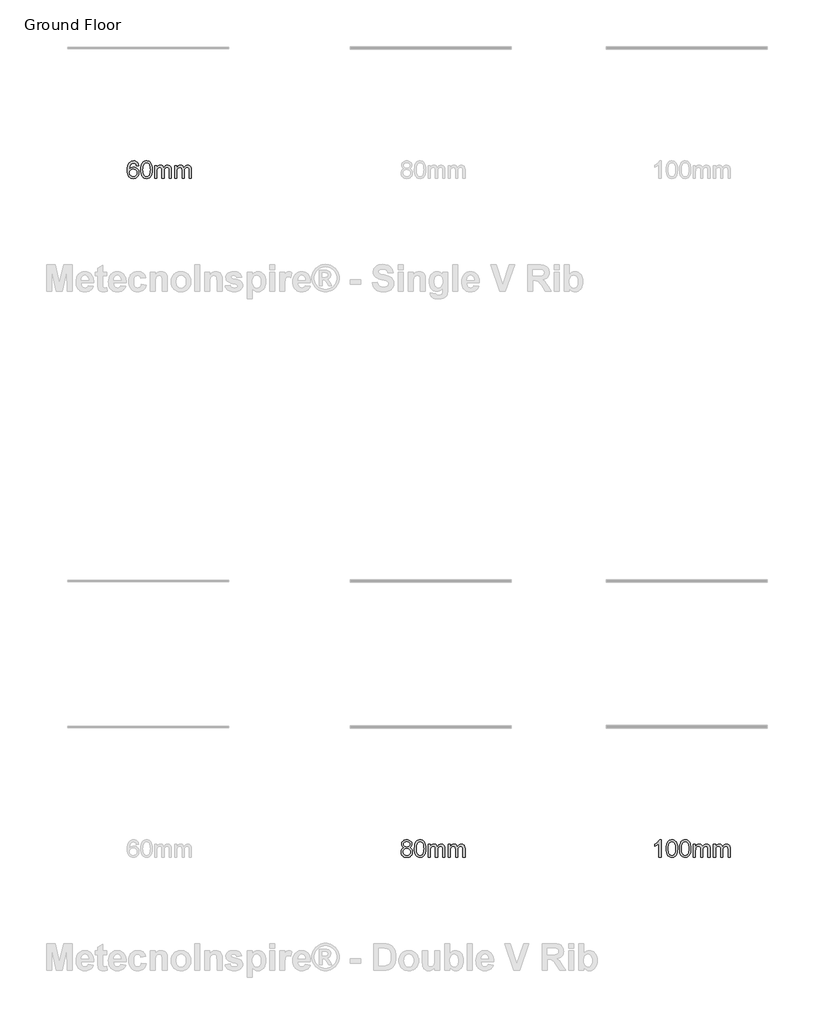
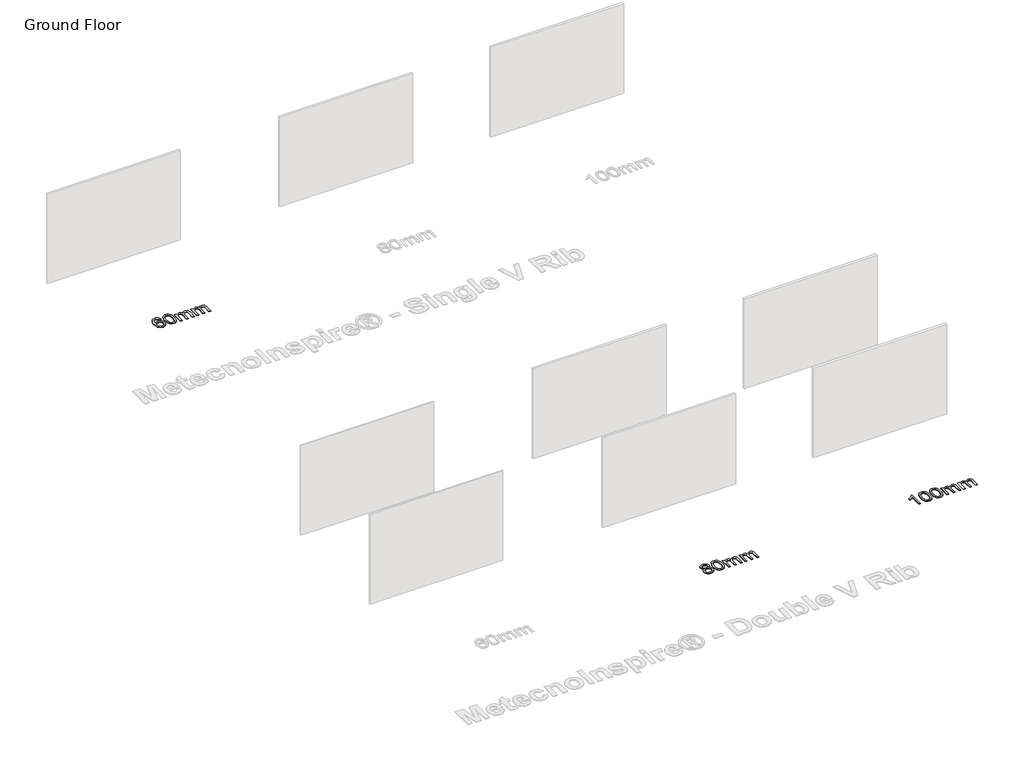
# One storey, part 10 of 14: 3 proxies.
"""IFC4 building model written with IfcOpenShell, lengths in millimetres."""

from ifc_helpers import new_model, si_unit, origin, origin_with_axes, place, context, project, spatial, polyline, outline, extrude, element, save

model = new_model("IFC4")

# Units and contexts
model_context = context("Model", 3, world=origin())
ifc_project = project(units=[si_unit("LENGTHUNIT", "METRE", prefix="MILLI")], contexts=[model_context])

# Site, building, storey
site = spatial("IfcSite", under=ifc_project)
building = spatial("IfcBuilding", under=site)
storey = spatial("IfcBuildingStorey", under=building, Name="Ground Floor", Elevation=0.0)

# Proxies
placement = place(None, origin())
element("IfcBuildingElementProxy", 1, Name="600mm Arial", ObjectType="600mm Arial", at=placement, inside=storey, context=model_context, shape_type="SweptSolid", body=[
    extrude(outline(polyline([(2240.452797, -25042.9517534), (2165.1105644, -25052.3695325), (2152.9704585, -25015.02951), (2136.5629215, -24989.5352877), (2120.3669167, -24975.8224863), (2102.3866842, -24966.0276282), (2082.622224, -24960.1507133), (2061.0735361, -24958.1917417), (2026.0511702, -24962.7534785), (1993.0889434, -24976.4386887), (1964.7804239, -25005.262243), (1941.6590405, -25044.9383162), (1932.622939, -25070.2439989), (1926.0424498, -25101.0587146), (1920.2483084, -25179.2152444), (1950.4698143, -25143.9537552), (1986.6877967, -25119.1033264), (2026.8789047, -25104.3696525), (2069.0197872, -25099.4584279), (2105.2193755, -25102.8153511), (2138.6230607, -25112.8861207), (2169.2308427, -25129.6707367), (2197.0427215, -25153.1691992), (2220.1549079, -25181.9835564), (2236.6636124, -25214.715857), (2246.5688351, -25251.3661007), (2249.870576, -25291.9342877), (2248.3162746, -25319.4012772), (2243.6533703, -25345.8841823), (2235.8818632, -25371.3830031), (2225.0017532, -25395.8977396), (2211.3993164, -25418.5132852), (2195.460829, -25438.3145336), (2177.1862908, -25455.3014848), (2156.5757021, -25469.4741386), (2134.070521, -25480.6439557), (2110.1122061, -25488.6223965), (2084.7007573, -25493.4094609), (2057.8361746, -25495.0051491), (2012.9223815, -25490.7745061), (1972.358793, -25478.0825773), (1936.1454091, -25456.9293626), (1904.2822298, -25427.314862), (1878.3051624, -25387.9882767), (1859.7501143, -25337.6988079), (1848.6170854, -25276.4464558), (1844.9060758, -25204.2312201), (1849.0263541, -25123.26959), (1861.3871891, -25054.1721543), (1881.9885809, -24996.9389129), (1895.3794855, -24972.771365), (1910.8305293, -24951.5698658), (1942.0913018, -24921.5047098), (1978.3368754, -24900.0295983), (2019.56725, -24887.1445314), (2065.7824257, -24882.8495091), (2100.4828949, -24885.5074565), (2131.8908202, -24893.4812988), (2160.0062017, -24906.7710358), (2184.8290393, -24925.3766678), (2205.6879484, -24948.6727951), (2221.9115444, -24976.0340185), (2233.4998273, -25007.4603379), (2240.452797, -25042.9517534)]), holes=[polyline([(1920.2483084, -25290.7570654), (1924.60771, -25324.1423564), (1937.6859149, -25356.0193313), (1957.9930011, -25383.4265399), (1984.0390463, -25403.4025323), (2015.4745628, -25415.5978204), (2051.9500626, -25419.6629165), (2078.1386622, -25417.5567921), (2101.6693143, -25411.2384188), (2122.542019, -25400.7077967), (2140.7567763, -25385.9649257), (2155.5318369, -25367.6076142), (2166.0854516, -25346.2336702), (2172.4176205, -25321.843094), (2174.5283434, -25294.4358853), (2172.4452116, -25268.100133), (2166.1958162, -25244.7166337), (2155.7801573, -25224.2853874), (2141.1982347, -25206.8063941), (2122.9282951, -25192.8038856), (2101.4485851, -25182.8020939), (2076.7591047, -25176.8010188), (2048.8598539, -25174.8006605), (2023.0207422, -25176.8010188), (1999.2141786, -25182.8020939), (1977.440163, -25192.8038856), (1957.6986955, -25206.8063941), (1941.3141511, -25224.0554611), (1929.6109051, -25243.7969287), (1922.5889576, -25266.0307968), (1920.2483084, -25290.7570654)])]), origin_with_axes(), (0.0, 0.0, 1.0), 20.0),
    extrude(outline(polyline([(2315.7950296, -25189.0744819), (2321.3316536, -25092.5974287), (2328.2524336, -25051.6843523), (2337.9415257, -25015.6549094), (2350.357543, -24984.2147944), (2365.4590989, -24957.0697016), (2383.2461934, -24934.2196312), (2403.7188264, -24915.6645831), (2426.9459759, -24901.3079882), (2452.9966197, -24891.0532776), (2481.8707578, -24884.9004512), (2513.5683902, -24882.8495091), (2559.995098, -24887.7055514), (2601.5657634, -24902.2736785), (2636.330612, -24925.983673), (2662.339869, -24958.2653181), (2681.9847676, -24998.8427022), (2697.6565406, -25047.4399138), (2707.9204482, -25109.1521184), (2711.3417508, -25189.0744819), (2705.8603091, -25284.9997121), (2699.0085069, -25325.7748328), (2689.4159839, -25361.7582904), (2677.0965356, -25393.212201), (2662.0639575, -25420.3986805), (2644.3182498, -25443.3177288), (2623.8594123, -25461.9693459), (2600.6046717, -25476.4225098), (2574.4712545, -25486.7461983), (2545.4591606, -25492.9404114), (2513.5683902, -25495.0051491), (2472.0713011, -25491.4182996), (2435.2831016, -25480.6577513), (2403.2037916, -25462.723504), (2375.8333712, -25437.6155578), (2349.5665967, -25392.2281167), (2330.804615, -25335.675457), (2319.5474259, -25267.9575787), (2315.7950296, -25189.0744819)]), holes=[polyline([(2391.1372622, -25188.9273291), (2393.3445542, -25254.4241198), (2399.9664301, -25307.4405138), (2411.0028899, -25347.9765112), (2426.4539337, -25376.0321118), (2445.1423391, -25395.1205889), (2465.8908836, -25408.7552153), (2488.6995673, -25416.9359912), (2513.5683902, -25419.6629165), (2538.4372131, -25416.9267941), (2561.2458968, -25408.7184271), (2581.9944413, -25395.0378154), (2600.6828466, -25375.884959), (2616.1338904, -25347.7833731), (2627.1703503, -25307.2565728), (2633.7922262, -25254.3045582), (2635.9995182, -25188.9273291), (2633.8658026, -25125.1641823), (2627.4646559, -25073.0812888), (2616.796078, -25032.6786487), (2601.860069, -25003.9562619), (2583.4843634, -24983.9342843), (2562.4966955, -24969.6328718), (2538.8970656, -24961.0520242), (2512.6854734, -24958.1917417), (2487.9454092, -24960.7117334), (2465.5230016, -24968.2717084), (2445.4182506, -24980.8716667), (2427.6311561, -24998.5116084), (2411.6650775, -25029.781578), (2400.2607357, -25071.9408546), (2393.4181306, -25124.9894383), (2391.1372622, -25188.9273291)])]), origin_with_axes(), (0.0, 0.0, 1.0), 20.0),
    extrude(outline(polyline([(2796.1017625, -25485.58737), (2796.1017625, -25042.9517534), (2871.4439951, -25042.9517534), (2871.4439951, -25115.7923885), (2894.105526, -25082.333521), (2923.24178, -25056.1219288), (2957.8594758, -25039.180963), (2996.9653319, -25033.5339743), (3038.8670911, -25039.2913276), (3056.7001708, -25046.4880191), (3072.4547173, -25056.5633872), (3097.5442693, -25084.2097192), (3113.9518063, -25121.0898892), (3141.4141973, -25082.7841764), (3172.7393491, -25055.422953), (3207.927262, -25039.006219), (3246.9779358, -25033.5339743), (3277.1396609, -25035.8102442), (3303.6133689, -25042.6390537), (3326.39906, -25054.0204029), (3345.4967341, -25069.9542919), (3360.5936915, -25090.6246615), (3371.3772324, -25116.2154528), (3377.847357, -25146.7266657), (3380.0040652, -25182.1583004), (3380.0040652, -25485.58737), (3304.6618326, -25485.58737), (3304.6618326, -25214.531916), (3302.9143931, -25176.9527702), (3297.6720747, -25151.6240948), (3287.8496254, -25134.2784587), (3272.3617934, -25120.6484308), (3252.4409834, -25111.8192629), (3229.3196, -25108.8762069), (3207.9686487, -25110.7616022), (3188.5030926, -25116.4177879), (3170.9229318, -25125.844764), (3155.2281662, -25139.0425306), (3142.3201067, -25156.3973637), (3133.1000642, -25178.2955394), (3127.5680387, -25204.7370578), (3125.7240302, -25235.7219189), (3125.7240302, -25485.58737), (3050.3817976, -25485.58737), (3050.3817976, -25206.1442065), (3046.0223959, -25163.5434714), (3040.5731439, -25146.8232348), (3032.944191, -25133.1564186), (3022.8320346, -25122.533826), (3009.9331722, -25114.9462599), (2994.2476036, -25110.3937202), (2975.7753289, -25108.8762069), (2946.7494395, -25112.9229089), (2920.0044185, -25125.0630147), (2897.9314987, -25145.0022189), (2882.9219133, -25172.4462157), (2874.3134747, -25210.5220022), (2871.4439951, -25262.3565753), (2871.4439951, -25485.58737), (2796.1017625, -25485.58737)])), origin_with_axes(), (0.0, 0.0, 1.0), 20.0),
    extrude(outline(polyline([(3493.0174141, -25485.58737), (3493.0174141, -25042.9517534), (3568.3596468, -25042.9517534), (3568.3596468, -25115.7923885), (3591.0211777, -25082.333521), (3620.1574317, -25056.1219288), (3654.7751274, -25039.180963), (3693.8809835, -25033.5339743), (3735.7827428, -25039.2913276), (3753.6158225, -25046.4880191), (3769.3703689, -25056.5633872), (3794.459921, -25084.2097192), (3810.867458, -25121.0898892), (3838.3298489, -25082.7841764), (3869.6550008, -25055.422953), (3904.8429136, -25039.006219), (3943.8935874, -25033.5339743), (3974.0553125, -25035.8102442), (4000.5290206, -25042.6390537), (4023.3147117, -25054.0204029), (4042.4123857, -25069.9542919), (4057.5093431, -25090.6246615), (4068.2928841, -25116.2154528), (4074.7630087, -25146.7266657), (4076.9197169, -25182.1583004), (4076.9197169, -25485.58737), (4001.5774843, -25485.58737), (4001.5774843, -25214.531916), (3999.8300448, -25176.9527702), (3994.5877264, -25151.6240948), (3984.7652771, -25134.2784587), (3969.2774451, -25120.6484308), (3949.3566351, -25111.8192629), (3926.2352517, -25108.8762069), (3904.8843004, -25110.7616022), (3885.4187443, -25116.4177879), (3867.8385835, -25125.844764), (3852.1438178, -25139.0425306), (3839.2357583, -25156.3973637), (3830.0157158, -25178.2955394), (3824.4836903, -25204.7370578), (3822.6396818, -25235.7219189), (3822.6396818, -25485.58737), (3747.2974492, -25485.58737), (3747.2974492, -25206.1442065), (3742.9380476, -25163.5434714), (3737.4887955, -25146.8232348), (3729.8598426, -25133.1564186), (3719.7476863, -25122.533826), (3706.8488238, -25114.9462599), (3691.1632553, -25110.3937202), (3672.6909806, -25108.8762069), (3643.6650912, -25112.9229089), (3616.9200701, -25125.0630147), (3594.8471504, -25145.0022189), (3579.837565, -25172.4462157), (3571.2291263, -25210.5220022), (3568.3596468, -25262.3565753), (3568.3596468, -25485.58737), (3493.0174141, -25485.58737)])), origin_with_axes(), (0.0, 0.0, 1.0), 20.0),
])
element("IfcBuildingElementProxy", 2, Name="600mm Arial", ObjectType="600mm Arial", at=placement, inside=storey, context=model_context, shape_type="SweptSolid", body=[
    extrude(outline(polyline([(11472.4270523, -48753.6106576), (11432.0887915, -48733.7450298), (11416.4308141, -48721.1634656), (11403.780272, -48706.8160678), (11387.0600353, -48673.3755944), (11381.4866231, -48633.9754327), (11384.5216495, -48603.2480891), (11393.6267289, -48575.0775253), (11408.8018612, -48549.4637414), (11430.0470464, -48526.4067373), (11456.341412, -48507.35045), (11486.6640855, -48493.7388162), (11521.0150668, -48485.5718359), (11559.3943559, -48482.8495091), (11597.9575861, -48485.6362152), (11632.5660848, -48493.9963336), (11663.219852, -48507.9298641), (11689.9188878, -48527.4368069), (11711.5503491, -48550.9444664), (11727.0013929, -48576.8801471), (11736.2720192, -48605.2438489), (11739.362228, -48636.0355719), (11733.8623921, -48674.1665407), (11717.3628846, -48707.036797), (11704.9422688, -48721.2876258), (11689.6797645, -48733.8002121), (11650.6290907, -48753.6106576), (11675.3921475, -48764.1458782), (11697.0006162, -48777.5045931), (11715.4544968, -48793.6868024), (11730.7537893, -48812.692506), (11742.7605379, -48834.0986396), (11751.3367869, -48857.4821389), (11756.4825363, -48882.8430039), (11758.1977861, -48910.1812347), (11754.7948777, -48947.7603805), (11744.5861523, -48982.2125294), (11727.57161, -49013.5376813), (11703.7512508, -49041.7358362), (11674.3758735, -49065.0411606), (11640.6962769, -49081.6878209), (11602.7124609, -49091.675817), (11560.4244255, -49095.0051491), (11518.1363902, -49091.6620215), (11480.1525742, -49081.6326386), (11446.4729775, -49064.9170004), (11417.0976002, -49041.515107), (11393.277241, -49013.1192155), (11376.2626987, -48981.4215831), (11366.0539734, -48946.4222098), (11362.6510649, -48908.1210955), (11364.4352926, -48879.5366645), (11369.7879756, -48853.3802547), (11378.709114, -48829.651866), (11391.1987077, -48808.3514984), (11406.9808453, -48789.8654282), (11425.7796153, -48774.5799313), (11447.5950176, -48762.4950077), (11472.4270523, -48753.6106576)]), holes=[polyline([(11437.9932975, -48905.4723452), (11441.1386886, -48934.2958995), (11450.5748617, -48962.1997488), (11467.9940742, -48986.5351428), (11495.0885832, -49004.6533311), (11527.5357751, -49015.9105201), (11561.0130367, -49019.6629165), (11588.2546984, -49017.6901493), (11612.2957868, -49011.7718477), (11633.1363019, -49001.9080117), (11650.7762435, -48988.0986413), (11664.8109416, -48971.2450474), (11674.835726, -48952.2485409), (11680.8505966, -48931.1091217), (11682.8555535, -48907.8267899), (11680.7862173, -48884.1719777), (11674.5782086, -48862.6508809), (11664.2315275, -48843.2634998), (11649.7461739, -48826.0098342), (11631.6279857, -48811.8463774), (11610.3828005, -48801.7296225), (11586.0106183, -48795.6595696), (11558.5114391, -48793.6362186), (11531.6698491, -48795.6319785), (11507.9460589, -48801.6192579), (11487.3400686, -48811.5980571), (11469.8518783, -48825.5683758), (11455.9137492, -48842.5369328), (11445.9579427, -48861.5104467), (11439.9844588, -48882.4889175), (11437.9932975, -48905.4723452)]), polyline([(11456.8288557, -48636.1827247), (11458.4981202, -48653.4547844), (11463.5059139, -48669.0713751), (11471.8522366, -48683.0324968), (11483.5370885, -48695.3381495), (11498.4133167, -48705.381328), (11516.3337684, -48712.5550269), (11537.2984436, -48716.8592462), (11561.3073423, -48718.293986), (11584.7230313, -48716.8684433), (11605.2324525, -48712.5918151), (11622.835606, -48705.4641014), (11637.5324917, -48695.4853023), (11649.1207745, -48683.437167), (11657.3981194, -48670.1014447), (11662.3645264, -48655.4781353), (11664.0199953, -48639.5672391), (11662.3093441, -48623.0355419), (11657.1773902, -48607.8742052), (11648.6241339, -48594.0832289), (11636.6495749, -48581.662613), (11621.6215954, -48571.3941068), (11603.9080773, -48564.0594595), (11583.5090207, -48559.6586712), (11560.4244255, -48558.1917417), (11537.1604878, -48559.6264815), (11516.6648622, -48563.9307008), (11498.9375485, -48571.1043998), (11483.9785469, -48581.1475782), (11472.100557, -48593.1957136), (11463.6162785, -48606.3842831), (11458.5257114, -48620.7132868), (11456.8288557, -48636.1827247)])]), origin_with_axes(), (0.0, 0.0, 1.0), 20.0),
    extrude(outline(polyline([(11824.1222397, -48789.0744819), (11829.6588637, -48692.5974287), (11836.5796437, -48651.6843523), (11846.2687358, -48615.6549094), (11858.6847531, -48584.2147944), (11873.786309, -48557.0697016), (11891.5734035, -48534.2196312), (11912.0460365, -48515.6645831), (11935.273186, -48501.3079882), (11961.3238298, -48491.0532776), (11990.1979678, -48484.9004512), (12021.8956003, -48482.8495091), (12068.322308, -48487.7055514), (12109.8929735, -48502.2736785), (12144.657822, -48525.983673), (12170.6670791, -48558.2653181), (12190.3119776, -48598.8427022), (12205.9837506, -48647.4399138), (12216.2476583, -48709.1521184), (12219.6689609, -48789.0744819), (12214.1875191, -48884.9997121), (12207.335717, -48925.7748328), (12197.743194, -48961.7582904), (12185.4237456, -48993.212201), (12170.3911676, -49020.3986805), (12152.6454599, -49043.3177288), (12132.1866224, -49061.9693459), (12108.9318818, -49076.4225098), (12082.7984646, -49086.7461983), (12053.7863707, -49092.9404114), (12021.8956003, -49095.0051491), (11980.3985112, -49091.4182996), (11943.6103117, -49080.6577513), (11911.5310017, -49062.723504), (11884.1605813, -49037.6155578), (11857.8938068, -48992.2281167), (11839.1318251, -48935.675457), (11827.874636, -48867.9575787), (11824.1222397, -48789.0744819)]), holes=[polyline([(11899.4644723, -48788.9273291), (11901.6717642, -48854.4241198), (11908.2936401, -48907.4405138), (11919.3301, -48947.9765112), (11934.7811438, -48976.0321118), (11953.4695492, -48995.1205889), (11974.2180937, -49008.7552153), (11997.0267774, -49016.9359912), (12021.8956003, -49019.6629165), (12046.7644231, -49016.9267941), (12069.5731068, -49008.7184271), (12090.3216514, -48995.0378154), (12109.0100567, -48975.884959), (12124.4611005, -48947.7833731), (12135.4975604, -48907.2565728), (12142.1194363, -48854.3045582), (12144.3267283, -48788.9273291), (12142.1930127, -48725.1641823), (12135.791866, -48673.0812888), (12125.1232881, -48632.6786487), (12110.1872791, -48603.9562619), (12091.8115734, -48583.9342843), (12070.8239056, -48569.6328718), (12047.2242756, -48561.0520242), (12021.0126835, -48558.1917417), (11996.2726193, -48560.7117334), (11973.8502117, -48568.2717084), (11953.7454607, -48580.8716667), (11935.9583662, -48598.5116084), (11919.9922876, -48629.781578), (11908.5879457, -48671.9408546), (11901.7453406, -48724.9894383), (11899.4644723, -48788.9273291)])]), origin_with_axes(), (0.0, 0.0, 1.0), 20.0),
    extrude(outline(polyline([(12304.4289726, -49085.58737), (12304.4289726, -48642.9517534), (12379.7712052, -48642.9517534), (12379.7712052, -48715.7923885), (12402.4327361, -48682.333521), (12431.5689901, -48656.1219288), (12466.1866858, -48639.180963), (12505.2925419, -48633.5339743), (12547.1943012, -48639.2913276), (12565.0273809, -48646.4880191), (12580.7819273, -48656.5633872), (12605.8714794, -48684.2097192), (12622.2790164, -48721.0898892), (12649.7414073, -48682.7841764), (12681.0665592, -48655.422953), (12716.2544721, -48639.006219), (12755.3051458, -48633.5339743), (12785.4668709, -48635.8102442), (12811.940579, -48642.6390537), (12834.7262701, -48654.0204029), (12853.8239442, -48669.9542919), (12868.9209015, -48690.6246615), (12879.7044425, -48716.2154528), (12886.1745671, -48746.7266657), (12888.3312753, -48782.1583004), (12888.3312753, -49085.58737), (12812.9890427, -49085.58737), (12812.9890427, -48814.531916), (12811.2416032, -48776.9527702), (12805.9992848, -48751.6240948), (12796.1768355, -48734.2784587), (12780.6890035, -48720.6484308), (12760.7681935, -48711.8192629), (12737.6468101, -48708.8762069), (12716.2958588, -48710.7616022), (12696.8303027, -48716.4177879), (12679.2501419, -48725.844764), (12663.5553762, -48739.0425306), (12650.6473167, -48756.3973637), (12641.4272742, -48778.2955394), (12635.8952487, -48804.7370578), (12634.0512402, -48835.7219189), (12634.0512402, -49085.58737), (12558.7090076, -49085.58737), (12558.7090076, -48806.1442065), (12554.349606, -48763.5434714), (12548.9003539, -48746.8232348), (12541.271401, -48733.1564186), (12531.1592447, -48722.533826), (12518.2603822, -48714.9462599), (12502.5748137, -48710.3937202), (12484.102539, -48708.8762069), (12455.0766496, -48712.9229089), (12428.3316285, -48725.0630147), (12406.2587088, -48745.0022189), (12391.2491234, -48772.4462157), (12382.6406847, -48810.5220022), (12379.7712052, -48862.3565753), (12379.7712052, -49085.58737), (12304.4289726, -49085.58737)])), origin_with_axes(), (0.0, 0.0, 1.0), 20.0),
    extrude(outline(polyline([(13001.3446242, -49085.58737), (13001.3446242, -48642.9517534), (13076.6868568, -48642.9517534), (13076.6868568, -48715.7923885), (13099.3483877, -48682.333521), (13128.4846417, -48656.1219288), (13163.1023375, -48639.180963), (13202.2081936, -48633.5339743), (13244.1099528, -48639.2913276), (13261.9430325, -48646.4880191), (13277.697579, -48656.5633872), (13302.7871311, -48684.2097192), (13319.194668, -48721.0898892), (13346.657059, -48682.7841764), (13377.9822109, -48655.422953), (13413.1701237, -48639.006219), (13452.2207975, -48633.5339743), (13482.3825226, -48635.8102442), (13508.8562307, -48642.6390537), (13531.6419217, -48654.0204029), (13550.7395958, -48669.9542919), (13565.8365532, -48690.6246615), (13576.6200942, -48716.2154528), (13583.0902188, -48746.7266657), (13585.246927, -48782.1583004), (13585.246927, -49085.58737), (13509.9046943, -49085.58737), (13509.9046943, -48814.531916), (13508.1572549, -48776.9527702), (13502.9149364, -48751.6240948), (13493.0924872, -48734.2784587), (13477.6046552, -48720.6484308), (13457.6838451, -48711.8192629), (13434.5624617, -48708.8762069), (13413.2115104, -48710.7616022), (13393.7459544, -48716.4177879), (13376.1657935, -48725.844764), (13360.4710279, -48739.0425306), (13347.5629684, -48756.3973637), (13338.3429259, -48778.2955394), (13332.8109004, -48804.7370578), (13330.9668919, -48835.7219189), (13330.9668919, -49085.58737), (13255.6246593, -49085.58737), (13255.6246593, -48806.1442065), (13251.2652576, -48763.5434714), (13245.8160056, -48746.8232348), (13238.1870527, -48733.1564186), (13228.0748964, -48722.533826), (13215.1760339, -48714.9462599), (13199.4904653, -48710.3937202), (13181.0181907, -48708.8762069), (13151.9923012, -48712.9229089), (13125.2472802, -48725.0630147), (13103.1743605, -48745.0022189), (13088.1647751, -48772.4462157), (13079.5563364, -48810.5220022), (13076.6868568, -48862.3565753), (13076.6868568, -49085.58737), (13001.3446242, -49085.58737)])), origin_with_axes(), (0.0, 0.0, 1.0), 20.0),
])
element("IfcBuildingElementProxy", 3, Name="600mm Arial", ObjectType="600mm Arial", at=placement, inside=storey, context=model_context, shape_type="SweptSolid", body=[
    extrude(outline(polyline([(20401.7887855, -49085.58737), (20326.4465529, -49085.58737), (20326.4465529, -48615.8756386), (20294.9926423, -48641.3146785), (20255.0774458, -48666.7169303), (20213.1756866, -48688.9186087), (20175.7620877, -48704.7559286), (20175.7620877, -48633.5339743), (20234.9359066, -48601.3442998), (20286.2002626, -48563.0477841), (20326.6120998, -48522.3232472), (20353.2283621, -48482.8495091), (20401.7887855, -48482.8495091), (20401.7887855, -49085.58737)])), origin_with_axes(), (0.0, 0.0, 1.0), 20.0),
    extrude(outline(polyline([(20580.726588, -48789.0744819), (20586.263212, -48692.5974287), (20593.183992, -48651.6843523), (20602.8730841, -48615.6549094), (20615.2891014, -48584.2147944), (20630.3906573, -48557.0697016), (20648.1777518, -48534.2196312), (20668.6503848, -48515.6645831), (20691.8775343, -48501.3079882), (20717.9281781, -48491.0532776), (20746.8023162, -48484.9004512), (20778.4999486, -48482.8495091), (20824.9266564, -48487.7055514), (20866.4973218, -48502.2736785), (20901.2621704, -48525.983673), (20927.2714274, -48558.2653181), (20946.916326, -48598.8427022), (20962.588099, -48647.4399138), (20972.8520066, -48709.1521184), (20976.2733092, -48789.0744819), (20970.7918674, -48884.9997121), (20963.9400653, -48925.7748328), (20954.3475423, -48961.7582904), (20942.0280939, -48993.212201), (20926.9955159, -49020.3986805), (20909.2498082, -49043.3177288), (20888.7909707, -49061.9693459), (20865.5362301, -49076.4225098), (20839.4028129, -49086.7461983), (20810.390719, -49092.9404114), (20778.4999486, -49095.0051491), (20737.0028595, -49091.4182996), (20700.21466, -49080.6577513), (20668.13535, -49062.723504), (20640.7649296, -49037.6155578), (20614.4981551, -48992.2281167), (20595.7361734, -48935.675457), (20584.4789843, -48867.9575787), (20580.726588, -48789.0744819)]), holes=[polyline([(20656.0688206, -48788.9273291), (20658.2761125, -48854.4241198), (20664.8979885, -48907.4405138), (20675.9344483, -48947.9765112), (20691.3854921, -48976.0321118), (20710.0738975, -48995.1205889), (20730.822442, -49008.7552153), (20753.6311257, -49016.9359912), (20778.4999486, -49019.6629165), (20803.3687714, -49016.9267941), (20826.1774551, -49008.7184271), (20846.9259997, -48995.0378154), (20865.614405, -48975.884959), (20881.0654488, -48947.7833731), (20892.1019087, -48907.2565728), (20898.7237846, -48854.3045582), (20900.9310766, -48788.9273291), (20898.797361, -48725.1641823), (20892.3962143, -48673.0812888), (20881.7276364, -48632.6786487), (20866.7916274, -48603.9562619), (20848.4159217, -48583.9342843), (20827.4282539, -48569.6328718), (20803.8286239, -48561.0520242), (20777.6170318, -48558.1917417), (20752.8769676, -48560.7117334), (20730.45456, -48568.2717084), (20710.349809, -48580.8716667), (20692.5627145, -48598.5116084), (20676.5966359, -48629.781578), (20665.1922941, -48671.9408546), (20658.3496889, -48724.9894383), (20656.0688206, -48788.9273291)])]), origin_with_axes(), (0.0, 0.0, 1.0), 20.0),
    extrude(outline(polyline([(21042.1977627, -48789.0744819), (21047.7343867, -48692.5974287), (21054.6551668, -48651.6843523), (21064.3442588, -48615.6549094), (21076.7602762, -48584.2147944), (21091.8618321, -48557.0697016), (21109.6489265, -48534.2196312), (21130.1215596, -48515.6645831), (21153.348709, -48501.3079882), (21179.3993528, -48491.0532776), (21208.2734909, -48484.9004512), (21239.9711233, -48482.8495091), (21286.3978311, -48487.7055514), (21327.9684966, -48502.2736785), (21362.7333451, -48525.983673), (21388.7426022, -48558.2653181), (21408.3875007, -48598.8427022), (21424.0592737, -48647.4399138), (21434.3231814, -48709.1521184), (21437.7444839, -48789.0744819), (21432.2630422, -48884.9997121), (21425.41124, -48925.7748328), (21415.818717, -48961.7582904), (21403.4992687, -48993.212201), (21388.4666907, -49020.3986805), (21370.7209829, -49043.3177288), (21350.2621455, -49061.9693459), (21327.0074048, -49076.4225098), (21300.8739876, -49086.7461983), (21271.8618938, -49092.9404114), (21239.9711233, -49095.0051491), (21198.4740343, -49091.4182996), (21161.6858347, -49080.6577513), (21129.6065248, -49062.723504), (21102.2361043, -49037.6155578), (21075.9693299, -48992.2281167), (21057.2073481, -48935.675457), (21045.9501591, -48867.9575787), (21042.1977627, -48789.0744819)]), holes=[polyline([(21117.5399953, -48788.9273291), (21119.7472873, -48854.4241198), (21126.3691632, -48907.4405138), (21137.4056231, -48947.9765112), (21152.8566669, -48976.0321118), (21171.5450722, -48995.1205889), (21192.2936167, -49008.7552153), (21215.1023004, -49016.9359912), (21239.9711233, -49019.6629165), (21264.8399462, -49016.9267941), (21287.6486299, -49008.7184271), (21308.3971744, -48995.0378154), (21327.0855798, -48975.884959), (21342.5366236, -48947.7833731), (21353.5730834, -48907.2565728), (21360.1949593, -48854.3045582), (21362.4022513, -48788.9273291), (21360.2685357, -48725.1641823), (21353.867389, -48673.0812888), (21343.1988112, -48632.6786487), (21328.2628022, -48603.9562619), (21309.8870965, -48583.9342843), (21288.8994287, -48569.6328718), (21265.2997987, -48561.0520242), (21239.0882065, -48558.1917417), (21214.3481424, -48560.7117334), (21191.9257347, -48568.2717084), (21171.8209837, -48580.8716667), (21154.0338892, -48598.5116084), (21138.0678107, -48629.781578), (21126.6634688, -48671.9408546), (21119.8208637, -48724.9894383), (21117.5399953, -48788.9273291)])]), origin_with_axes(), (0.0, 0.0, 1.0), 20.0),
    extrude(outline(polyline([(21522.5044956, -49085.58737), (21522.5044956, -48642.9517534), (21597.8467282, -48642.9517534), (21597.8467282, -48715.7923885), (21620.5082591, -48682.333521), (21649.6445131, -48656.1219288), (21684.2622089, -48639.180963), (21723.368065, -48633.5339743), (21765.2698242, -48639.2913276), (21783.1029039, -48646.4880191), (21798.8574504, -48656.5633872), (21823.9470025, -48684.2097192), (21840.3545394, -48721.0898892), (21867.8169304, -48682.7841764), (21899.1420823, -48655.422953), (21934.3299951, -48639.006219), (21973.3806689, -48633.5339743), (22003.542394, -48635.8102442), (22030.0161021, -48642.6390537), (22052.8017931, -48654.0204029), (22071.8994672, -48669.9542919), (22086.9964246, -48690.6246615), (22097.7799656, -48716.2154528), (22104.2500902, -48746.7266657), (22106.4067984, -48782.1583004), (22106.4067984, -49085.58737), (22031.0645657, -49085.58737), (22031.0645657, -48814.531916), (22029.3171263, -48776.9527702), (22024.0748078, -48751.6240948), (22014.2523586, -48734.2784587), (21998.7645266, -48720.6484308), (21978.8437165, -48711.8192629), (21955.7223331, -48708.8762069), (21934.3713818, -48710.7616022), (21914.9058258, -48716.4177879), (21897.3256649, -48725.844764), (21881.6308993, -48739.0425306), (21868.7228398, -48756.3973637), (21859.5027973, -48778.2955394), (21853.9707718, -48804.7370578), (21852.1267633, -48835.7219189), (21852.1267633, -49085.58737), (21776.7845307, -49085.58737), (21776.7845307, -48806.1442065), (21772.425129, -48763.5434714), (21766.975877, -48746.8232348), (21759.3469241, -48733.1564186), (21749.2347678, -48722.533826), (21736.3359053, -48714.9462599), (21720.6503367, -48710.3937202), (21702.1780621, -48708.8762069), (21673.1521726, -48712.9229089), (21646.4071516, -48725.0630147), (21624.3342319, -48745.0022189), (21609.3246465, -48772.4462157), (21600.7162078, -48810.5220022), (21597.8467282, -48862.3565753), (21597.8467282, -49085.58737), (21522.5044956, -49085.58737)])), origin_with_axes(), (0.0, 0.0, 1.0), 20.0),
    extrude(outline(polyline([(22219.4201473, -49085.58737), (22219.4201473, -48642.9517534), (22294.7623799, -48642.9517534), (22294.7623799, -48715.7923885), (22317.4239108, -48682.333521), (22346.5601648, -48656.1219288), (22381.1778606, -48639.180963), (22420.2837166, -48633.5339743), (22462.1854759, -48639.2913276), (22480.0185556, -48646.4880191), (22495.7731021, -48656.5633872), (22520.8626541, -48684.2097192), (22537.2701911, -48721.0898892), (22564.732582, -48682.7841764), (22596.0577339, -48655.422953), (22631.2456468, -48639.006219), (22670.2963206, -48633.5339743), (22700.4580456, -48635.8102442), (22726.9317537, -48642.6390537), (22749.7174448, -48654.0204029), (22768.8151189, -48669.9542919), (22783.9120762, -48690.6246615), (22794.6956172, -48716.2154528), (22801.1657418, -48746.7266657), (22803.32245, -48782.1583004), (22803.32245, -49085.58737), (22727.9802174, -49085.58737), (22727.9802174, -48814.531916), (22726.2327779, -48776.9527702), (22720.9904595, -48751.6240948), (22711.1680102, -48734.2784587), (22695.6801782, -48720.6484308), (22675.7593682, -48711.8192629), (22652.6379848, -48708.8762069), (22631.2870335, -48710.7616022), (22611.8214774, -48716.4177879), (22594.2413166, -48725.844764), (22578.546551, -48739.0425306), (22565.6384915, -48756.3973637), (22556.418449, -48778.2955394), (22550.8864235, -48804.7370578), (22549.042415, -48835.7219189), (22549.042415, -49085.58737), (22473.7001823, -49085.58737), (22473.7001823, -48806.1442065), (22469.3407807, -48763.5434714), (22463.8915286, -48746.8232348), (22456.2625758, -48733.1564186), (22446.1504194, -48722.533826), (22433.251557, -48714.9462599), (22417.5659884, -48710.3937202), (22399.0937137, -48708.8762069), (22370.0678243, -48712.9229089), (22343.3228033, -48725.0630147), (22321.2498835, -48745.0022189), (22306.2402981, -48772.4462157), (22297.6318594, -48810.5220022), (22294.7623799, -48862.3565753), (22294.7623799, -49085.58737), (22219.4201473, -49085.58737)])), origin_with_axes(), (0.0, 0.0, 1.0), 20.0),
])

save(model, "model.ifc")
